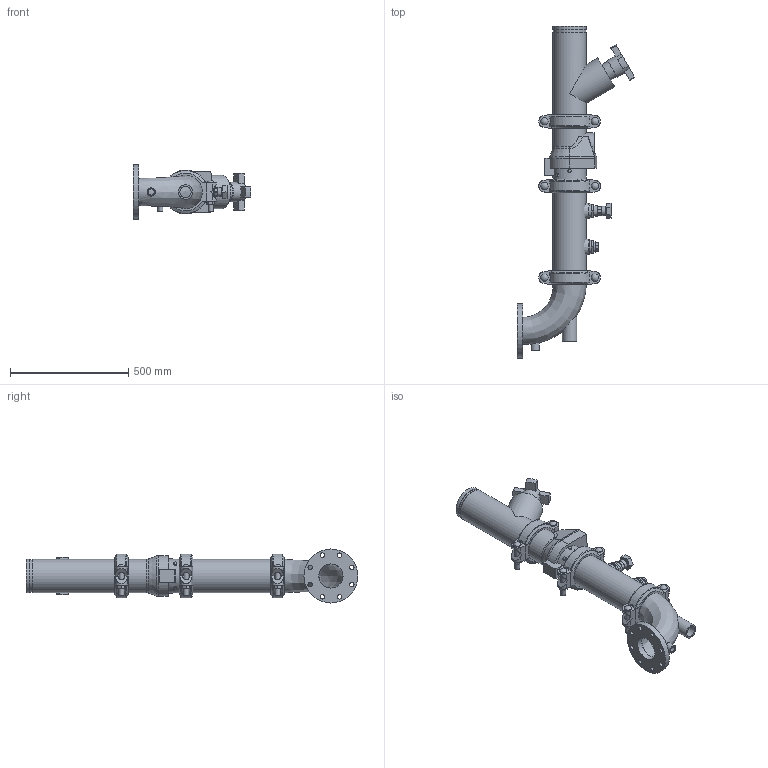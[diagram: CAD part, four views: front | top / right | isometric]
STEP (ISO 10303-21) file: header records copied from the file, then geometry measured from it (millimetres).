
FILE_DESCRIPTION(/* description */ ('VIC DVI PUMP DROP HORZ S/383 (OGSxFLG) (S/924-1.25)','CAx-IF Rec.Pracs.---Representation and Presentation of Product Manufacturing Information (PMI)---4.0---2014-10-13'),/* implementation_level */ '2;1');
FILE_NAME(/* name */ 'C:\Users\kkamble\AppData\Roaming\Autodesk\ApplicationPlugins\Victaulic.Temp\A821\CL 150_Series 383 (OGSxFLG)_924 (1.25)_05.0x04.0 (125x100).stp',/* time_stamp */ '2022-03-16T18:45:41+05:00',/* author */ ('kkamble'),/* organization */ ('Victaulic'),/* preprocessor_version */ 'ST-DEVELOPER v17.2',/* originating_system */ 'Autodesk Inventor 2019',/* authorisation */ '');
FILE_SCHEMA (('AP242_MANAGED_MODEL_BASED_3D_ENGINEERING_MIM_LF { 1 0 10303 442 1 1 4 }'));
Length unit declared in the file: inch
Products named in the file (8): 383_924 (1.25)-05.0x04.0; Pipe-05.0x04.0; 789-05.0; 177N-05.0; 779-05.0; 924-04.0x01.25; 923-04.0x0.75; R100F-05.0x04.0
Assembly tree (9 placements, depth 2):
  383_924 (1.25)-05.0x04.0
    177N-05.0  x3
    Pipe-05.0x04.0
    789-05.0
    779-05.0
    924-04.0x01.25
    923-04.0x0.75
    R100F-05.0x04.0
Bounding box: 498.6 x 1404.94 x 228.6 mm (x, y, z)
Volume: 11284449.5 mm3; surface area: 1917694.2 mm2
Topology: 9 solids, 10 shells, 543 faces, 1449 edges, 969 vertices
Faces by surface type: plane 316, cylinder 180, torus 18, cone 17, sphere 6, bspline 6
Full cylindrical faces by diameter (mm): 13.716 x4, 19.05 x8, 21.209 x6, 21.336 x1, 26.67 x3, 30.48 x6, 34.29 x1, 38.608 x1, 42.164 x1, 45.974 x4, 48.26 x1, 48.514 x1, 55.626 x2, 60.96 x1, 75.26 x1, 82.55 x1, 102.26 x1, 128.194 x4, 128.6 x3, 137.033 x7, 141.3 x18, 228.6 x1
Entity records: 13252 total; most frequent: CARTESIAN_POINT 3489, DIRECTION 1995, ORIENTED_EDGE 1846, EDGE_CURVE 923, AXIS2_PLACEMENT_3D 761, VERTEX_POINT 625, LINE 473, VECTOR 473
